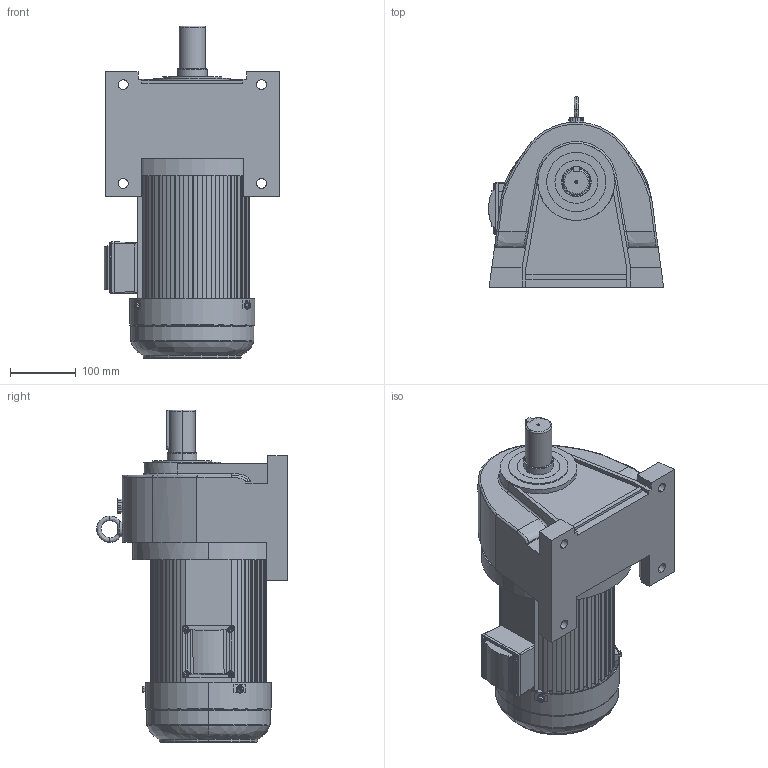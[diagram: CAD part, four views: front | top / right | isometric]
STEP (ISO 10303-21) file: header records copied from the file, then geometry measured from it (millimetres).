
FILE_DESCRIPTION (( 'STEP AP214' ), '1' );
FILE_NAME ('CH40-2200W去字改颜色.STEP', '2024-01-09T12:22:16', ( '微软用户' ), ( '微软中国' ), 'SwSTEP 2.0', 'SolidWorks 2014', '' );
FILE_SCHEMA (( 'AUTOMOTIVE_DESIGN' ));
Length unit declared in the file: millimetre
Products named in the file (9): 諉盄碟蹟佪; 奻裔(臏ㄘ; 菁碟ㄗ臏ㄘ; 瑞珔欶蹟佪; 190瑞珔欶; 160綴裔; 2200W萇儂俋褲; CH40; CH40-2200W去字改颜色
Assembly tree (13 placements, depth 2):
  CH40-2200W去字改颜色
    CH40
    2200W萇儂俋褲
    160綴裔
    190瑞珔欶
    瑞珔欶蹟佪  x3
    菁碟ㄗ臏ㄘ
    奻裔(臏ㄘ
    諉盄碟蹟佪  x4
Bounding box: 266 x 289.83 x 504.17 mm (x, y, z)
Volume: 7973709.8 mm3; surface area: 869822.2 mm2
Topology: 17 solids, 17 shells, 2010 faces, 5592 edges, 3671 vertices
Faces by surface type: cylinder 907, plane 889, bspline 150, cone 64
Entity records: 86974 total; most frequent: CARTESIAN_POINT 42032, ORIENTED_EDGE 9634, DIRECTION 8916, EDGE_CURVE 4817, VERTEX_POINT 3164, AXIS2_PLACEMENT_3D 2997, LINE 2922, VECTOR 2922
